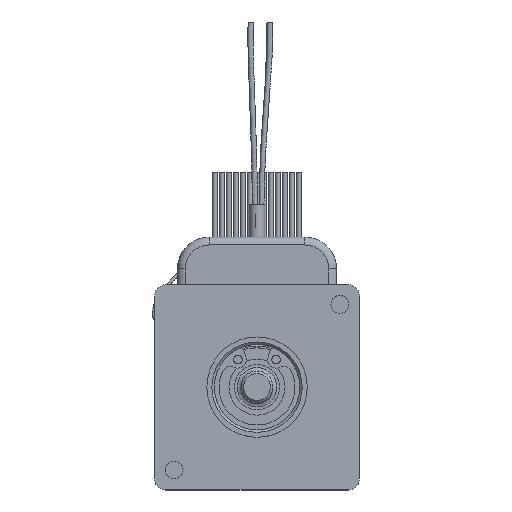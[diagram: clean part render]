
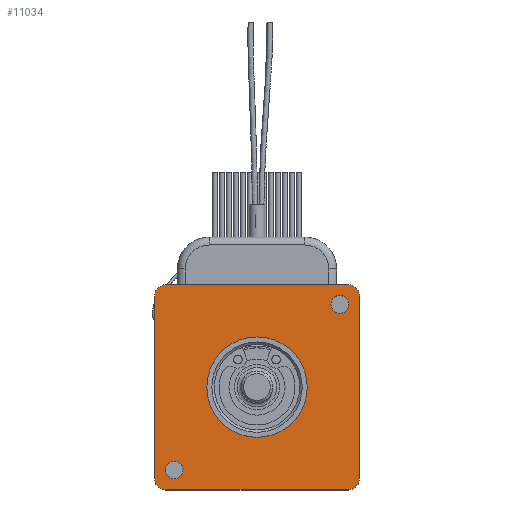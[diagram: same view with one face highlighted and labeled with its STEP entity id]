
A CAD part, top view. The second image highlights one B-rep face of the part: STEP entity #11034.
In plain terms, the highlighted planar face has unit normal (0, 0, 1).
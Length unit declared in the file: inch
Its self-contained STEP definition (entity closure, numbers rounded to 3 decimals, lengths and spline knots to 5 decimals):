
#10480=CARTESIAN_POINT('',(0.72,0.65,0.191));
#10481=VERTEX_POINT('',#10480);
#10482=CARTESIAN_POINT('',(0.65,0.65,0.191));
#10483=DIRECTION('',(0.0,0.0,-1.0));
#10484=DIRECTION('',(-1.0,0.0,0.0));
#10485=AXIS2_PLACEMENT_3D('',#10482,#10483,#10484);
#10486=CIRCLE('',#10485,0.07);
#10487=EDGE_CURVE('',#10481,#10481,#10486,.T.);
#10583=CARTESIAN_POINT('',(-0.58,-0.65,0.191));
#10584=VERTEX_POINT('',#10583);
#10585=CARTESIAN_POINT('',(-0.65,-0.65,0.191));
#10586=DIRECTION('',(0.0,0.0,-1.0));
#10587=DIRECTION('',(-1.0,0.0,0.0));
#10588=AXIS2_PLACEMENT_3D('',#10585,#10586,#10587);
#10589=CIRCLE('',#10588,0.07);
#10590=EDGE_CURVE('',#10584,#10584,#10589,.T.);
#10802=CARTESIAN_POINT('',(0.394,0.,0.191));
#10803=VERTEX_POINT('',#10802);
#10804=CARTESIAN_POINT('',(0.0,0.0,0.191));
#10805=DIRECTION('',(0.0,0.0,-1.0));
#10806=DIRECTION('',(-1.0,0.0,0.0));
#10807=AXIS2_PLACEMENT_3D('',#10804,#10805,#10806);
#10808=CIRCLE('',#10807,0.394);
#10809=EDGE_CURVE('',#10803,#10803,#10808,.T.);
#10820=CARTESIAN_POINT('',(0.715,0.805,0.191));
#10821=VERTEX_POINT('',#10820);
#10828=CARTESIAN_POINT('',(0.805,0.715,0.191));
#10829=VERTEX_POINT('',#10828);
#10830=CARTESIAN_POINT('',(0.715,0.715,0.191));
#10831=DIRECTION('',(0.0,0.0,-1.));
#10832=DIRECTION('',(0.707,0.707,0.0));
#10833=AXIS2_PLACEMENT_3D('',#10830,#10831,#10832);
#10834=CIRCLE('',#10833,0.09);
#10835=EDGE_CURVE('',#10821,#10829,#10834,.T.);
#10853=CARTESIAN_POINT('',(-0.715,0.805,0.191));
#10854=VERTEX_POINT('',#10853);
#10861=CARTESIAN_POINT('',(-0.715,0.805,0.191));
#10862=DIRECTION('',(1.0,0.0,0.0));
#10863=VECTOR('',#10862,1.43);
#10864=LINE('',#10861,#10863);
#10865=EDGE_CURVE('',#10854,#10821,#10864,.T.);
#10876=CARTESIAN_POINT('',(-0.715,-0.805,0.191));
#10877=VERTEX_POINT('',#10876);
#10884=CARTESIAN_POINT('',(-0.805,-0.715,0.191));
#10885=VERTEX_POINT('',#10884);
#10886=CARTESIAN_POINT('',(-0.715,-0.715,0.191));
#10887=DIRECTION('',(0.0,0.0,-1.));
#10888=DIRECTION('',(-0.707,-0.707,0.0));
#10889=AXIS2_PLACEMENT_3D('',#10886,#10887,#10888);
#10890=CIRCLE('',#10889,0.09);
#10891=EDGE_CURVE('',#10877,#10885,#10890,.T.);
#10909=CARTESIAN_POINT('',(0.715,-0.805,0.191));
#10910=VERTEX_POINT('',#10909);
#10917=CARTESIAN_POINT('',(0.715,-0.805,0.191));
#10918=DIRECTION('',(-1.0,0.0,0.0));
#10919=VECTOR('',#10918,1.43);
#10920=LINE('',#10917,#10919);
#10921=EDGE_CURVE('',#10910,#10877,#10920,.T.);
#10932=CARTESIAN_POINT('',(0.805,-0.715,0.191));
#10933=VERTEX_POINT('',#10932);
#10940=CARTESIAN_POINT('',(0.715,-0.715,0.191));
#10941=DIRECTION('',(0.0,0.0,-1.));
#10942=DIRECTION('',(0.707,-0.707,0.0));
#10943=AXIS2_PLACEMENT_3D('',#10940,#10941,#10942);
#10944=CIRCLE('',#10943,0.09);
#10945=EDGE_CURVE('',#10933,#10910,#10944,.T.);
#10957=CARTESIAN_POINT('',(0.805,0.715,0.191));
#10958=DIRECTION('',(0.0,-1.0,0.0));
#10959=VECTOR('',#10958,1.43);
#10960=LINE('',#10957,#10959);
#10961=EDGE_CURVE('',#10829,#10933,#10960,.T.);
#10973=CARTESIAN_POINT('',(-0.805,0.715,0.191));
#10974=VERTEX_POINT('',#10973);
#10975=CARTESIAN_POINT('',(-0.715,0.715,0.191));
#10976=DIRECTION('',(0.0,0.0,-1.));
#10977=DIRECTION('',(-0.707,0.707,0.0));
#10978=AXIS2_PLACEMENT_3D('',#10975,#10976,#10977);
#10979=CIRCLE('',#10978,0.09);
#10980=EDGE_CURVE('',#10974,#10854,#10979,.T.);
#10999=CARTESIAN_POINT('',(-0.805,-0.715,0.191));
#11000=DIRECTION('',(0.0,1.0,0.0));
#11001=VECTOR('',#11000,1.43);
#11002=LINE('',#10999,#11001);
#11003=EDGE_CURVE('',#10885,#10974,#11002,.T.);
#11010=CARTESIAN_POINT('',(0.,0.,0.191));
#11011=DIRECTION('',(0.0,0.0,1.0));
#11012=DIRECTION('',(1.0,0.0,0.0));
#11013=AXIS2_PLACEMENT_3D('',#11010,#11011,#11012);
#11014=PLANE('',#11013);
#11015=ORIENTED_EDGE('',*,*,#10835,.F.);
#11016=ORIENTED_EDGE('',*,*,#10865,.F.);
#11017=ORIENTED_EDGE('',*,*,#10980,.F.);
#11018=ORIENTED_EDGE('',*,*,#11003,.F.);
#11019=ORIENTED_EDGE('',*,*,#10891,.F.);
#11020=ORIENTED_EDGE('',*,*,#10921,.F.);
#11021=ORIENTED_EDGE('',*,*,#10945,.F.);
#11022=ORIENTED_EDGE('',*,*,#10961,.F.);
#11023=EDGE_LOOP('',(#11015,#11016,#11017,#11018,#11019,#11020,#11021,#11022));
#11024=FACE_OUTER_BOUND('',#11023,.T.);
#11025=ORIENTED_EDGE('',*,*,#10487,.T.);
#11026=EDGE_LOOP('',(#11025));
#11027=FACE_BOUND('',#11026,.T.);
#11028=ORIENTED_EDGE('',*,*,#10590,.T.);
#11029=EDGE_LOOP('',(#11028));
#11030=FACE_BOUND('',#11029,.T.);
#11031=ORIENTED_EDGE('',*,*,#10809,.T.);
#11032=EDGE_LOOP('',(#11031));
#11033=FACE_BOUND('',#11032,.T.);
#11034=ADVANCED_FACE('',(#11024,#11027,#11030,#11033),#11014,.T.);
